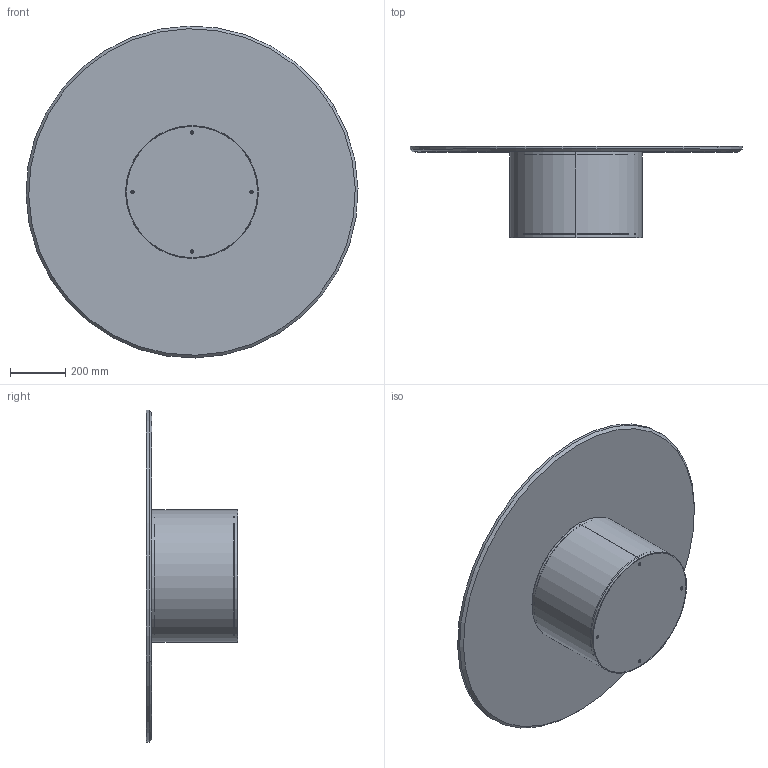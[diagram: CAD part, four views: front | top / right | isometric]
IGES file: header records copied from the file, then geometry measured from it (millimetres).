
Start section: SolidWorks IGES file using analytic representation for surfaces
Global section: file name: Y:\eforma\TECNICO\SOLIDWORKS\E-FORMA\2-TAVOLINI\CILINDRO LOW\02 parts\CL14M.IGS; native system: SolidWorks 2022; preprocessor: SolidWorks 2022; author: eforma.tech; date: 240806.121244; units: millimetre
Bounding box: 1199.7 x 330 x 1199.7 mm (x, y, z)
Volume: 25650724.7 mm3; surface area: 3904570.5 mm2
Topology: 12 solids, 12 shells, 270 faces, 585 edges, 330 vertices
Faces by surface type: revolution 146, plane 122, bspline 2
